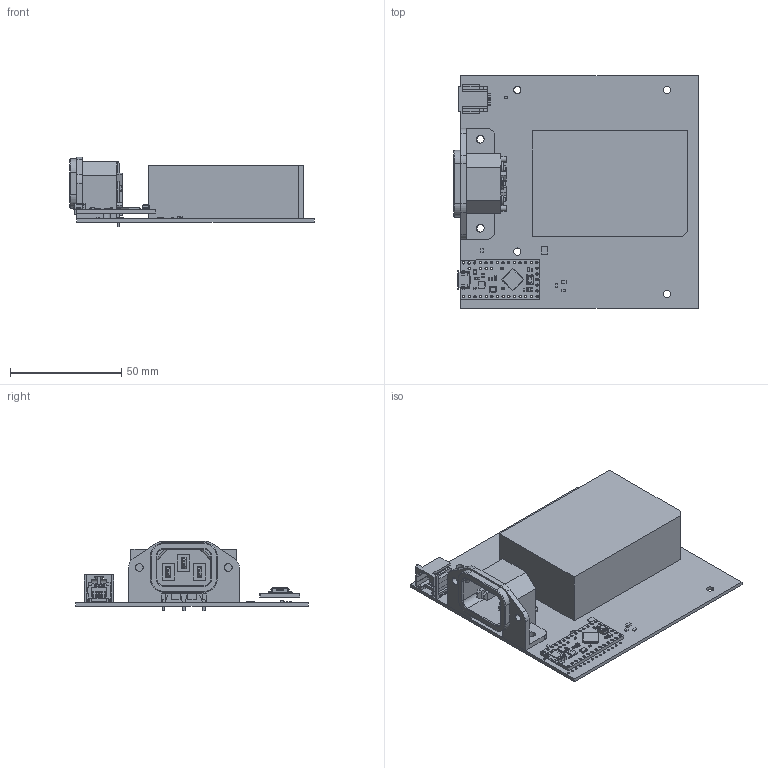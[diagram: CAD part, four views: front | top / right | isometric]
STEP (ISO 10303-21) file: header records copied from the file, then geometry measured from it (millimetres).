
FILE_DESCRIPTION(('Open CASCADE Model'),'2;1');
FILE_NAME('Open CASCADE Shape Model','2018-08-31T14:14:08',('Author'),( 'Open CASCADE'),'Open CASCADE STEP processor 6.8','Open CASCADE 6.8' ,'Unknown');
FILE_SCHEMA(('AUTOMOTIVE_DESIGN { 1 0 10303 214 1 1 1 1 }'));
Length unit declared in the file: millimetre
Products named in the file (58): PCB; Board; R7; 751394656; Extruded; M3; Teensy_lc; board; micro_usb_(1); Group#12_(1); micro_usb_plastic_(1); micro_usb_shell_(1); qfp16_v2; Component21; lead; diode_0402_v1; cap0603_03_v3; crystal_dfn4_v8; Component38; Component39; Component40; Component41; smt_tactile_button_2_v2; Component43; Component44; Component45; Component46; qfn48_v2; cap0402_v2; resistor_0805_v2; smt_led_0603_v2; sop23_v2; package; lead_(1); R6; 751394520; R3; R2; 751394384; R1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
Assembly tree (72 placements, depth 5):
  PCB
    Board
    R7
      751394656
        Extruded
    M3
      Teensy_lc
        board
        micro_usb_(1)
          Group#12_(1)  x5
          micro_usb_plastic_(1)
          micro_usb_shell_(1)
        qfp16_v2
          Component21
          lead
        diode_0402_v1  x4
        cap0603_03_v3  x2
        crystal_dfn4_v8
          Component38
          Component39
          Component40
          Component41
        smt_tactile_button_2_v2
          Component43
          Component44
          Component45
          Component46
        qfn48_v2
        cap0402_v2  x6
        resistor_0805_v2
        smt_led_0603_v2
        sop23_v2
          package
          lead_(1)
    R6
      751394520
        Extruded
    R3
      751394520
        Extruded
    R2
      751394384
        Extruded
    R1
      751394384
        Extruded
    Q1
      751394248
        Extruded
    M2
      751394112
        Extruded
    M1
      px0580-pc
      px0580-pc
      px0580-pc
      px0580-pc
      px0580-pc
      px0580-pc
      px0580-pc
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Bounding box: 109.81 x 104.39 x 31.43 mm (x, y, z)
Volume: 106891.4 mm3; surface area: 48089.6 mm2
Topology: 156 solids, 156 shells, 2985 faces, 7290 edges, 4605 vertices
Faces by surface type: plane 1846, cylinder 768, bspline 189, sphere 140, torus 26, cone 14, extrusion 2
Full cylindrical faces by diameter (mm): 1.016 x37, 1.065 x37, 1.27 x2, 1.63 x3, 2.032 x9, 3.251 x4, 3.4 x2
Entity records: 69194 total; most frequent: CARTESIAN_POINT 15524, ORIENTED_EDGE 10828, DIRECTION 10608, EDGE_CURVE 5414, VECTOR 4250, LINE 4248, VERTEX_POINT 3499, AXIS2_PLACEMENT_3D 3179
